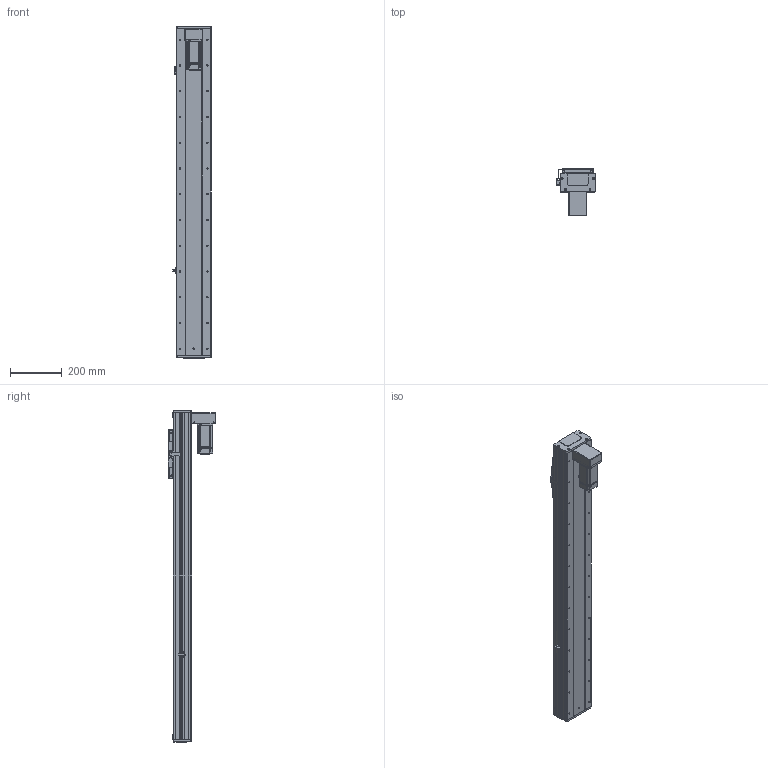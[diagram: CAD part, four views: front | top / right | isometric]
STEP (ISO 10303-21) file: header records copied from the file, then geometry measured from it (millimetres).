
FILE_DESCRIPTION (( 'STEP AP203' ), '1' );
FILE_NAME ('RY140F-L2020-300-BK.SLDASM_1000.step', '2021-03-02T08:27:15', ( '盈信电脑' ), ( '东莞市道滘镇水果街19号' ), 'SwSTEP 2.0', 'SolidWorks 2012', '' );
FILE_SCHEMA (( 'CONFIG_CONTROL_DESIGN' ));
Length unit declared in the file: millimetre
Products named in the file (21): RY140F-L2020-300-BK.SLDASM_1000; RY140F-直连型材铝滑块(16丝杆); RY140F-狟殏萇儂欶(400W); 滅袉蝶18-10; RY140F-詩湍嘐隅輸; 侐源滅袉蝶; RY140F-詩湍揤え; RY140F-狟殏萇儂啣(400W M5); RY140F-672覜茼んえ; 覜茼ん672; 15; 侂狟400W侜督萇儂; RY140F-后盖板(铝件）; RY140F-詩湍幗謫粣; RY100F-詩湍揤踡謫; 藻笠沭; RY140F-300-BK蛌殏詩湍_1000; RY140F-滅鳥奻裔; RY140F-直连型材铝滑块连接座; RY140F-300-BK倰第奻裔啣_1000; RY140F-300-BK倰第菁釱_1000
Assembly tree (26 placements, depth 3):
  RY140F-L2020-300-BK.SLDASM_1000
    RY140F-300-BK倰第菁釱_1000
    RY140F-300-BK倰第奻裔啣_1000  x2
    RY140F-300-BK蛌殏詩湍_1000
    RY140F-直连型材铝滑块连接座
    RY140F-滅鳥奻裔
    RY140F-詩湍幗謫粣
    藻笠沭  x2
    RY100F-詩湍揤踡謫
    RY140F-后盖板(铝件）  x2
    侂狟400W侜督萇儂
      15
    覜茼ん672
    RY140F-672覜茼んえ
    RY140F-詩湍揤え  x2
    侐源滅袉蝶  x2
    RY140F-狟殏萇儂啣(400W M5)
    RY140F-狟殏萇儂欶(400W)
    RY140F-詩湍嘐隅輸
    滅袉蝶18-10  x2
    RY140F-直连型材铝滑块(16丝杆)
Bounding box: 148.7 x 184.5 x 1289 mm (x, y, z)
Volume: 4808896.6 mm3; surface area: 1716171.6 mm2
Topology: 25 solids, 25 shells, 2072 faces, 5664 edges, 3600 vertices
Faces by surface type: cylinder 1011, plane 811, cone 224, bspline 22, torus 4
Entity records: 65096 total; most frequent: CARTESIAN_POINT 13615, DIRECTION 10427, ORIENTED_EDGE 10108, EDGE_CURVE 5054, AXIS2_PLACEMENT_3D 3740, VERTEX_POINT 3304, LINE 2947, VECTOR 2947
